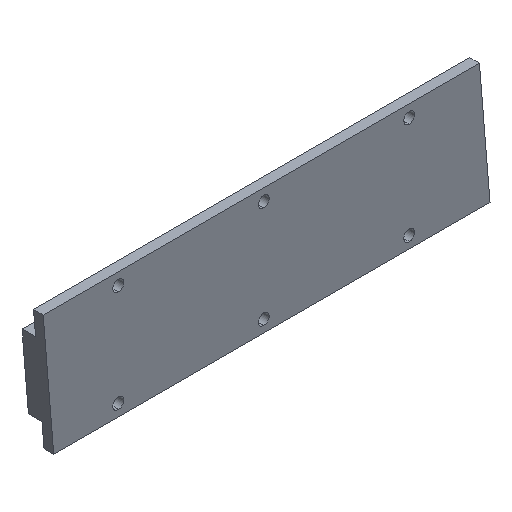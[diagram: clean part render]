
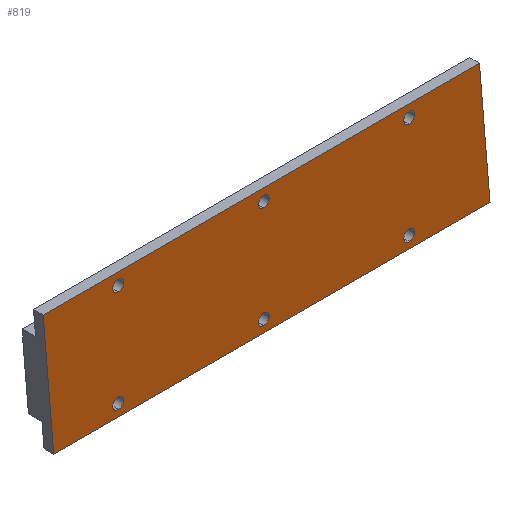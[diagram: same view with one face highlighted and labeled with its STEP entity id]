
A CAD part, isometric view. The second image highlights one B-rep face of the part: STEP entity #819.
In plain terms, the highlighted planar face has unit normal (0, -1, 0).
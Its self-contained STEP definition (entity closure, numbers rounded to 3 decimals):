
#24 = DIRECTION ( 'NONE',  ( 0., -1., 0. ) ) ;
#37 = CIRCLE ( 'NONE', #2091, 2.25 ) ;
#64 = VERTEX_POINT ( 'NONE', #2783 ) ;
#85 = FACE_BOUND ( 'NONE', #455, .T. ) ;
#92 = CARTESIAN_POINT ( 'NONE',  ( 0., 0., 0. ) ) ;
#93 = DIRECTION ( 'NONE',  ( 0., -1., 0. ) ) ;
#105 = ORIENTED_EDGE ( 'NONE', *, *, #1008, .F. ) ;
#113 = VERTEX_POINT ( 'NONE', #2152 ) ;
#118 = CIRCLE ( 'NONE', #758, 2.25 ) ;
#121 = DIRECTION ( 'NONE',  ( 0., 0., -1. ) ) ;
#135 = DIRECTION ( 'NONE',  ( 0., -1., 0. ) ) ;
#167 = ORIENTED_EDGE ( 'NONE', *, *, #2657, .F. ) ;
#168 = CARTESIAN_POINT ( 'NONE',  ( -61.18, 0., 23.25 ) ) ;
#170 = ORIENTED_EDGE ( 'NONE', *, *, #2034, .F. ) ;
#177 = CARTESIAN_POINT ( 'NONE',  ( -1.18, 0., 21. ) ) ;
#216 = FACE_BOUND ( 'NONE', #2179, .T. ) ;
#219 = DIRECTION ( 'NONE',  ( 0., 0., -1. ) ) ;
#220 = VERTEX_POINT ( 'NONE', #453 ) ;
#240 = VERTEX_POINT ( 'NONE', #640 ) ;
#262 = DIRECTION ( 'NONE',  ( 0., 0., -1. ) ) ;
#283 = FACE_BOUND ( 'NONE', #1664, .T. ) ;
#292 = ORIENTED_EDGE ( 'NONE', *, *, #2284, .F. ) ;
#321 = AXIS2_PLACEMENT_3D ( 'NONE', #2746, #983, #776 ) ;
#332 = DIRECTION ( 'NONE',  ( 0., 0., -1. ) ) ;
#340 = CARTESIAN_POINT ( 'NONE',  ( -61.18, 0., -21. ) ) ;
#358 = AXIS2_PLACEMENT_3D ( 'NONE', #177, #1282, #831 ) ;
#376 = CARTESIAN_POINT ( 'NONE',  ( 58.82, 0., -21. ) ) ;
#409 = AXIS2_PLACEMENT_3D ( 'NONE', #340, #1010, #2517 ) ;
#426 = DIRECTION ( 'NONE',  ( -0.084, 0., 0.997 ) ) ;
#440 = CARTESIAN_POINT ( 'NONE',  ( -92.18, 0., 26. ) ) ;
#441 = ORIENTED_EDGE ( 'NONE', *, *, #765, .F. ) ;
#453 = CARTESIAN_POINT ( 'NONE',  ( 58.82, 0., -18.75 ) ) ;
#455 = EDGE_LOOP ( 'NONE', ( #441, #1305 ) ) ;
#459 = CARTESIAN_POINT ( 'NONE',  ( -92.18, 0., 26. ) ) ;
#476 = DIRECTION ( 'NONE',  ( 0., 0., -1. ) ) ;
#477 = DIRECTION ( 'NONE',  ( 1., 0., 0. ) ) ;
#493 = CARTESIAN_POINT ( 'NONE',  ( -61.18, 0., 21. ) ) ;
#512 = DIRECTION ( 'NONE',  ( 0., -1., 0. ) ) ;
#521 = VECTOR ( 'NONE', #2539, 1000. ) ;
#524 = DIRECTION ( 'NONE',  ( 0., 0., -1. ) ) ;
#538 = CARTESIAN_POINT ( 'NONE',  ( 58.82, 0., 21. ) ) ;
#558 = CIRCLE ( 'NONE', #358, 2.25 ) ;
#563 = CARTESIAN_POINT ( 'NONE',  ( -1.18, 0., 21. ) ) ;
#609 = ORIENTED_EDGE ( 'NONE', *, *, #1253, .F. ) ;
#640 = CARTESIAN_POINT ( 'NONE',  ( -61.18, 0., -23.25 ) ) ;
#675 = EDGE_LOOP ( 'NONE', ( #609, #1871, #105, #170 ) ) ;
#691 = CARTESIAN_POINT ( 'NONE',  ( 87.82, 0., 26. ) ) ;
#758 = AXIS2_PLACEMENT_3D ( 'NONE', #538, #1854, #2525 ) ;
#761 = ORIENTED_EDGE ( 'NONE', *, *, #796, .F. ) ;
#765 = EDGE_CURVE ( 'NONE', #851, #832, #1013, .T. ) ;
#767 = CIRCLE ( 'NONE', #2137, 2.25 ) ;
#768 = VECTOR ( 'NONE', #426, 1000. ) ;
#776 = DIRECTION ( 'NONE',  ( 0., 0., -1. ) ) ;
#789 = DIRECTION ( 'NONE',  ( 0., -1., 0. ) ) ;
#796 = EDGE_CURVE ( 'NONE', #896, #1712, #2584, .T. ) ;
#805 = CARTESIAN_POINT ( 'NONE',  ( 87.82, 0., 26. ) ) ;
#819 = ADVANCED_FACE ( 'NONE', ( #2064, #85, #216, #283, #2636, #844, #901 ), #2259, .T. ) ;
#831 = DIRECTION ( 'NONE',  ( 0., 0., -1. ) ) ;
#832 = VERTEX_POINT ( 'NONE', #2707 ) ;
#844 = FACE_BOUND ( 'NONE', #1302, .T. ) ;
#846 = LINE ( 'NONE', #691, #2167 ) ;
#851 = VERTEX_POINT ( 'NONE', #967 ) ;
#884 = ORIENTED_EDGE ( 'NONE', *, *, #1942, .F. ) ;
#896 = VERTEX_POINT ( 'NONE', #1802 ) ;
#901 = FACE_BOUND ( 'NONE', #1652, .T. ) ;
#936 = EDGE_CURVE ( 'NONE', #220, #113, #2140, .T. ) ;
#967 = CARTESIAN_POINT ( 'NONE',  ( -1.18, 0., -18.75 ) ) ;
#975 = DIRECTION ( 'NONE',  ( 0., -1., 0. ) ) ;
#983 = DIRECTION ( 'NONE',  ( 0., -1., 0. ) ) ;
#1008 = EDGE_CURVE ( 'NONE', #2210, #1898, #1488, .T. ) ;
#1009 = CIRCLE ( 'NONE', #1056, 2.25 ) ;
#1010 = DIRECTION ( 'NONE',  ( 0., -1., 0. ) ) ;
#1013 = CIRCLE ( 'NONE', #1264, 2.25 ) ;
#1031 = VERTEX_POINT ( 'NONE', #1963 ) ;
#1045 = CIRCLE ( 'NONE', #1669, 2.25 ) ;
#1050 = EDGE_CURVE ( 'NONE', #832, #851, #37, .T. ) ;
#1056 = AXIS2_PLACEMENT_3D ( 'NONE', #376, #2133, #1896 ) ;
#1095 = VERTEX_POINT ( 'NONE', #2457 ) ;
#1097 = EDGE_CURVE ( 'NONE', #1898, #1795, #2372, .T. ) ;
#1136 = CARTESIAN_POINT ( 'NONE',  ( -61.18, 0., -21. ) ) ;
#1153 = VERTEX_POINT ( 'NONE', #2009 ) ;
#1170 = VERTEX_POINT ( 'NONE', #2471 ) ;
#1175 = CARTESIAN_POINT ( 'NONE',  ( 58.82, 0., 23.25 ) ) ;
#1225 = CARTESIAN_POINT ( 'NONE',  ( 58.82, 0., -21. ) ) ;
#1253 = EDGE_CURVE ( 'NONE', #1795, #1095, #846, .T. ) ;
#1264 = AXIS2_PLACEMENT_3D ( 'NONE', #1745, #1353, #262 ) ;
#1282 = DIRECTION ( 'NONE',  ( 0., -1., 0. ) ) ;
#1302 = EDGE_LOOP ( 'NONE', ( #1837, #2120 ) ) ;
#1305 = ORIENTED_EDGE ( 'NONE', *, *, #1050, .F. ) ;
#1341 = CARTESIAN_POINT ( 'NONE',  ( -1.18, 0., -21. ) ) ;
#1353 = DIRECTION ( 'NONE',  ( 0., -1., 0. ) ) ;
#1382 = CARTESIAN_POINT ( 'NONE',  ( -87.82, 0., -26. ) ) ;
#1387 = CIRCLE ( 'NONE', #409, 2.25 ) ;
#1398 = EDGE_LOOP ( 'NONE', ( #884, #2317 ) ) ;
#1457 = CIRCLE ( 'NONE', #2464, 2.25 ) ;
#1488 = LINE ( 'NONE', #440, #768 ) ;
#1492 = EDGE_CURVE ( 'NONE', #2579, #1031, #2196, .T. ) ;
#1569 = DIRECTION ( 'NONE',  ( 0.084, 0., -0.997 ) ) ;
#1595 = DIRECTION ( 'NONE',  ( 0., -1., 0. ) ) ;
#1625 = CARTESIAN_POINT ( 'NONE',  ( -61.18, 0., 21. ) ) ;
#1652 = EDGE_LOOP ( 'NONE', ( #2353, #167 ) ) ;
#1664 = EDGE_LOOP ( 'NONE', ( #292, #761 ) ) ;
#1669 = AXIS2_PLACEMENT_3D ( 'NONE', #563, #135, #332 ) ;
#1712 = VERTEX_POINT ( 'NONE', #168 ) ;
#1725 = EDGE_CURVE ( 'NONE', #1153, #1170, #558, .T. ) ;
#1745 = CARTESIAN_POINT ( 'NONE',  ( -1.18, 0., -21. ) ) ;
#1770 = VECTOR ( 'NONE', #477, 1000. ) ;
#1795 = VERTEX_POINT ( 'NONE', #805 ) ;
#1802 = CARTESIAN_POINT ( 'NONE',  ( -61.18, 0., 18.75 ) ) ;
#1825 = AXIS2_PLACEMENT_3D ( 'NONE', #1225, #789, #121 ) ;
#1837 = ORIENTED_EDGE ( 'NONE', *, *, #936, .F. ) ;
#1854 = DIRECTION ( 'NONE',  ( 0., -1., 0. ) ) ;
#1871 = ORIENTED_EDGE ( 'NONE', *, *, #1097, .F. ) ;
#1896 = DIRECTION ( 'NONE',  ( 0., 0., -1. ) ) ;
#1898 = VERTEX_POINT ( 'NONE', #2812 ) ;
#1942 = EDGE_CURVE ( 'NONE', #1170, #1153, #1045, .T. ) ;
#1956 = EDGE_CURVE ( 'NONE', #64, #240, #1387, .T. ) ;
#1963 = CARTESIAN_POINT ( 'NONE',  ( 58.82, 0., 18.75 ) ) ;
#2009 = CARTESIAN_POINT ( 'NONE',  ( -1.18, 0., 18.75 ) ) ;
#2029 = AXIS2_PLACEMENT_3D ( 'NONE', #1625, #975, #524 ) ;
#2034 = EDGE_CURVE ( 'NONE', #1095, #2210, #2822, .T. ) ;
#2064 = FACE_BOUND ( 'NONE', #1398, .T. ) ;
#2091 = AXIS2_PLACEMENT_3D ( 'NONE', #1341, #24, #219 ) ;
#2120 = ORIENTED_EDGE ( 'NONE', *, *, #2732, .F. ) ;
#2133 = DIRECTION ( 'NONE',  ( 0., -1., 0. ) ) ;
#2137 = AXIS2_PLACEMENT_3D ( 'NONE', #1136, #1595, #2659 ) ;
#2140 = CIRCLE ( 'NONE', #1825, 2.25 ) ;
#2152 = CARTESIAN_POINT ( 'NONE',  ( 58.82, 0., -23.25 ) ) ;
#2167 = VECTOR ( 'NONE', #1569, 1000. ) ;
#2179 = EDGE_LOOP ( 'NONE', ( #2248, #2288 ) ) ;
#2196 = CIRCLE ( 'NONE', #321, 2.25 ) ;
#2210 = VERTEX_POINT ( 'NONE', #1382 ) ;
#2248 = ORIENTED_EDGE ( 'NONE', *, *, #1956, .F. ) ;
#2259 = PLANE ( 'NONE',  #2587 ) ;
#2284 = EDGE_CURVE ( 'NONE', #1712, #896, #1457, .T. ) ;
#2288 = ORIENTED_EDGE ( 'NONE', *, *, #2581, .F. ) ;
#2317 = ORIENTED_EDGE ( 'NONE', *, *, #1725, .F. ) ;
#2353 = ORIENTED_EDGE ( 'NONE', *, *, #1492, .F. ) ;
#2372 = LINE ( 'NONE', #459, #1770 ) ;
#2457 = CARTESIAN_POINT ( 'NONE',  ( 92.18, 0., -26. ) ) ;
#2464 = AXIS2_PLACEMENT_3D ( 'NONE', #493, #93, #476 ) ;
#2471 = CARTESIAN_POINT ( 'NONE',  ( -1.18, 0., 23.25 ) ) ;
#2517 = DIRECTION ( 'NONE',  ( 0., 0., -1. ) ) ;
#2525 = DIRECTION ( 'NONE',  ( 0., 0., -1. ) ) ;
#2539 = DIRECTION ( 'NONE',  ( -1., 0., 0. ) ) ;
#2579 = VERTEX_POINT ( 'NONE', #1175 ) ;
#2581 = EDGE_CURVE ( 'NONE', #240, #64, #767, .T. ) ;
#2584 = CIRCLE ( 'NONE', #2029, 2.25 ) ;
#2587 = AXIS2_PLACEMENT_3D ( 'NONE', #92, #512, #2741 ) ;
#2636 = FACE_OUTER_BOUND ( 'NONE', #675, .T. ) ;
#2657 = EDGE_CURVE ( 'NONE', #1031, #2579, #118, .T. ) ;
#2659 = DIRECTION ( 'NONE',  ( 0., 0., -1. ) ) ;
#2707 = CARTESIAN_POINT ( 'NONE',  ( -1.18, 0., -23.25 ) ) ;
#2732 = EDGE_CURVE ( 'NONE', #113, #220, #1009, .T. ) ;
#2741 = DIRECTION ( 'NONE',  ( 0., 0., -1. ) ) ;
#2746 = CARTESIAN_POINT ( 'NONE',  ( 58.82, 0., 21. ) ) ;
#2748 = CARTESIAN_POINT ( 'NONE',  ( -87.82, 0., -26. ) ) ;
#2783 = CARTESIAN_POINT ( 'NONE',  ( -61.18, 0., -18.75 ) ) ;
#2812 = CARTESIAN_POINT ( 'NONE',  ( -92.18, 0., 26. ) ) ;
#2822 = LINE ( 'NONE', #2748, #521 ) ;
